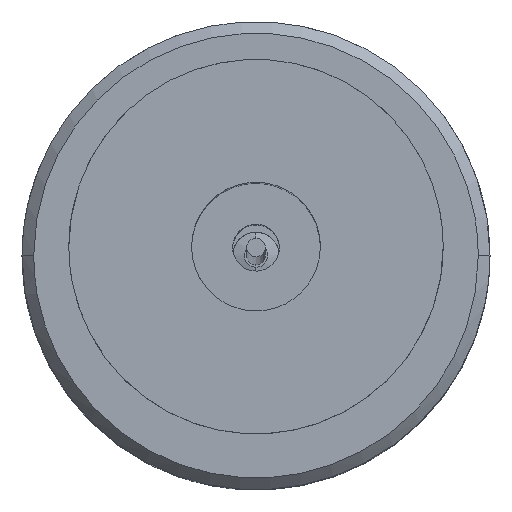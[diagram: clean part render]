
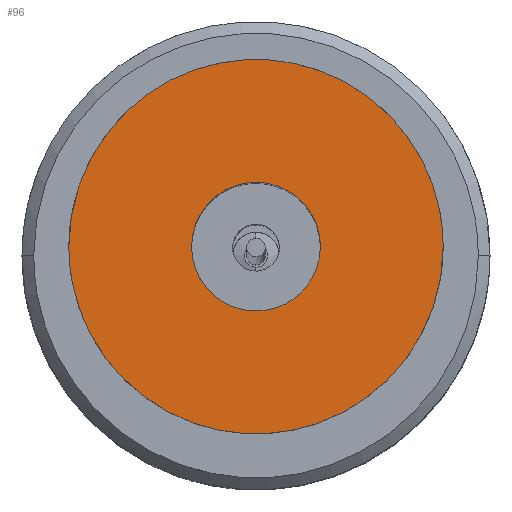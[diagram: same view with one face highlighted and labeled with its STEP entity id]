
A CAD part, top view. The second image highlights one B-rep face of the part: STEP entity #96.
In plain terms, the highlighted planar face has unit normal (0, 0, 1).
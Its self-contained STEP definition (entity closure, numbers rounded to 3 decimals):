
#75=FACE_BOUND('',#287,.T.);
#96=ADVANCED_FACE('',(#188,#75),#1383,.T.);
#188=FACE_OUTER_BOUND('',#286,.T.);
#286=EDGE_LOOP('',(#429,#430));
#287=EDGE_LOOP('',(#431,#432));
#429=ORIENTED_EDGE('',*,*,#852,.F.);
#430=ORIENTED_EDGE('',*,*,#829,.F.);
#431=ORIENTED_EDGE('',*,*,#812,.T.);
#432=ORIENTED_EDGE('',*,*,#838,.T.);
#812=EDGE_CURVE('',#1242,#1257,#1136,.T.);
#829=EDGE_CURVE('',#1254,#1267,#1145,.T.);
#838=EDGE_CURVE('',#1257,#1242,#1150,.T.);
#852=EDGE_CURVE('',#1267,#1254,#1159,.T.);
#1136=(
BOUNDED_CURVE()
B_SPLINE_CURVE(2,(#1779,#1780,#1781,#1782,#1783),.UNSPECIFIED.,.F.,.F.)
B_SPLINE_CURVE_WITH_KNOTS((3,2,3),(-17.279,-12.959,
-8.639),.UNSPECIFIED.)
CURVE()
GEOMETRIC_REPRESENTATION_ITEM()
RATIONAL_B_SPLINE_CURVE((1.,0.707,1.,0.707,1.))
REPRESENTATION_ITEM('')
);
#1145=(
BOUNDED_CURVE()
B_SPLINE_CURVE(2,(#1904,#1905,#1906,#1907,#1908),.UNSPECIFIED.,.F.,.F.)
B_SPLINE_CURVE_WITH_KNOTS((3,2,3),(0.,12.566,25.133),
 .UNSPECIFIED.)
CURVE()
GEOMETRIC_REPRESENTATION_ITEM()
RATIONAL_B_SPLINE_CURVE((1.,0.707,1.,0.707,1.))
REPRESENTATION_ITEM('')
);
#1150=(
BOUNDED_CURVE()
B_SPLINE_CURVE(2,(#1937,#1938,#1939,#1940,#1941),.UNSPECIFIED.,.F.,.F.)
B_SPLINE_CURVE_WITH_KNOTS((3,2,3),(-8.639,-4.32,
0.),.UNSPECIFIED.)
CURVE()
GEOMETRIC_REPRESENTATION_ITEM()
RATIONAL_B_SPLINE_CURVE((1.,0.707,1.,0.707,1.))
REPRESENTATION_ITEM('')
);
#1159=(
BOUNDED_CURVE()
B_SPLINE_CURVE(2,(#1992,#1993,#1994,#1995,#1996),.UNSPECIFIED.,.F.,.F.)
B_SPLINE_CURVE_WITH_KNOTS((3,2,3),(25.133,37.699,50.265),
 .UNSPECIFIED.)
CURVE()
GEOMETRIC_REPRESENTATION_ITEM()
RATIONAL_B_SPLINE_CURVE((1.,0.707,1.,0.707,1.))
REPRESENTATION_ITEM('')
);
#1242=VERTEX_POINT('',#1671);
#1254=VERTEX_POINT('',#1683);
#1257=VERTEX_POINT('',#1686);
#1267=VERTEX_POINT('',#1696);
#1383=PLANE('',#1490);
#1490=AXIS2_PLACEMENT_3D('',#1656,#1573,$);
#1573=DIRECTION('',(0.,0.,1.));
#1656=CARTESIAN_POINT('',(-10.21,-10.21,219.5));
#1671=CARTESIAN_POINT('',(-2.75,0.,219.5));
#1683=CARTESIAN_POINT('',(-8.,0.,219.5));
#1686=CARTESIAN_POINT('',(2.75,0.,219.5));
#1696=CARTESIAN_POINT('',(8.,0.,219.5));
#1779=CARTESIAN_POINT('',(-2.75,0.,219.5));
#1780=CARTESIAN_POINT('',(-2.75,2.75,219.5));
#1781=CARTESIAN_POINT('',(0.,2.75,219.5));
#1782=CARTESIAN_POINT('',(2.75,2.75,219.5));
#1783=CARTESIAN_POINT('',(2.75,0.,219.5));
#1904=CARTESIAN_POINT('',(-8.,0.,219.5));
#1905=CARTESIAN_POINT('',(-8.,8.,219.5));
#1906=CARTESIAN_POINT('',(0.,8.,219.5));
#1907=CARTESIAN_POINT('',(8.,8.,219.5));
#1908=CARTESIAN_POINT('',(8.,0.,219.5));
#1937=CARTESIAN_POINT('',(2.75,0.,219.5));
#1938=CARTESIAN_POINT('',(2.75,-2.75,219.5));
#1939=CARTESIAN_POINT('',(0.,-2.75,219.5));
#1940=CARTESIAN_POINT('',(-2.75,-2.75,219.5));
#1941=CARTESIAN_POINT('',(-2.75,0.,219.5));
#1992=CARTESIAN_POINT('',(8.,0.,219.5));
#1993=CARTESIAN_POINT('',(8.,-8.,219.5));
#1994=CARTESIAN_POINT('',(0.,-8.,219.5));
#1995=CARTESIAN_POINT('',(-8.,-8.,219.5));
#1996=CARTESIAN_POINT('',(-8.,0.,219.5));
